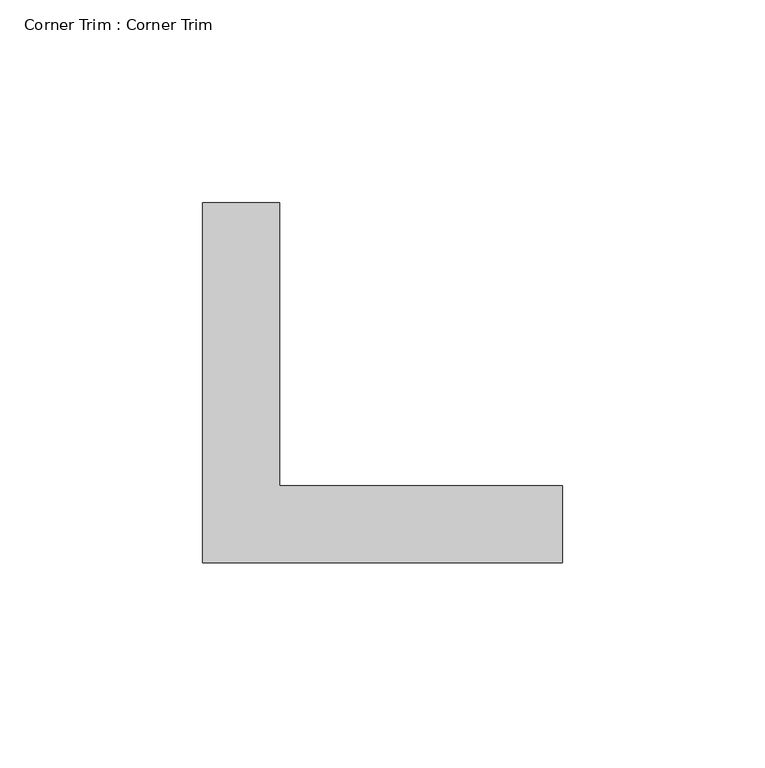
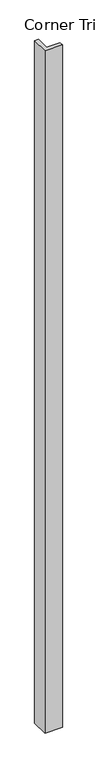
"""IFC4 building model written with IfcOpenShell, lengths in millimetres: proxy geometry, Corner Trim : Corner Trim."""

import ifcopenshell
import ifcopenshell.guid

model = None  # the IFC model being written
_history = None  # IfcOwnerHistory: only IFC2X3 demands one
_inside = {}  # id of a spatial element -> (the spatial element, [elements in it])
_under = {}  # id of a project, library or spatial element -> (it, [spatial elements below it])
_declared = {}  # id of a project -> (the project, [libraries it declares])
_typed = {}  # id of a type object -> (the type object, [elements of that type])
_made_of = {}  # id of a material, layer set ... -> (it, [elements and type objects made of it])


def new_model(schema):
    """Start an empty IFC model of exactly this schema.

    Asked for "IFC4X3", IfcOpenShell would pick the latest addendum, in which some entities
    have other attributes; the version numbers below select the first issue.
    IFC2X3 requires an IfcOwnerHistory on every rooted entity: one is made here for all.
    """
    global model, _history
    if schema == "IFC4X3":
        model = ifcopenshell.file(schema_version=(4, 3, 0, 0))
    else:
        model = ifcopenshell.file(schema=schema)
    _inside.clear()
    _under.clear()
    _declared.clear()
    _typed.clear()
    _made_of.clear()
    _history = None
    if model.schema == "IFC2X3":
        org = make("IfcOrganization", Name="unknown")
        user = make(
            "IfcPersonAndOrganization",
            ThePerson=make("IfcPerson", FamilyName="unknown"),
            TheOrganization=org,
        )
        app = make(
            "IfcApplication",
            ApplicationDeveloper=org,
            Version="unknown",
            ApplicationFullName="unknown",
            ApplicationIdentifier="unknown",
        )
        _history = make(
            "IfcOwnerHistory",
            OwningUser=user,
            OwningApplication=app,
            ChangeAction="ADDED",
            CreationDate=0,
        )
    return model


def make(cls, **values):
    """One entity of the class cls with the attributes given. An attribute that is None is left unset."""
    return model.create_entity(
        cls, **{name: value for name, value in values.items() if value is not None}
    )


def rooted(cls, **values):
    """An entity with a GlobalId (a new one), such as an element, a storey or a relation."""
    return make(cls, GlobalId=ifcopenshell.guid.new(), OwnerHistory=_history, **values)


def si_unit(unit_type, name, prefix=None):
    """IfcSIUnit, for example si_unit("LENGTHUNIT", "METRE", prefix="MILLI")."""
    return make("IfcSIUnit", UnitType=unit_type, Prefix=prefix, Name=name)


def assignment(units):
    """IfcUnitAssignment: the units of a project."""
    return None if units is None else make("IfcUnitAssignment", Units=units)


def point(xyz):
    """IfcCartesianPoint."""
    return None if xyz is None else make("IfcCartesianPoint", Coordinates=xyz)


def direction(xyz):
    """IfcDirection."""
    return None if xyz is None else make("IfcDirection", DirectionRatios=xyz)


def frame(location, z_axis=None, x_axis=None):
    """IfcAxis2Placement3D, a coordinate frame: its origin and axes. An axis left out is left unset."""
    return make(
        "IfcAxis2Placement3D",
        Location=point(location),
        Axis=direction(z_axis),
        RefDirection=direction(x_axis),
    )


def origin():
    """The frame at (0, 0, 0) with its axes left unset."""
    return frame((0.0, 0.0, 0.0))


def origin_with_axes():
    """The frame at (0, 0, 0) with the z axis (0, 0, 1) and the x axis (1, 0, 0) written out."""
    return frame((0.0, 0.0, 0.0), z_axis=(0.0, 0.0, 1.0), x_axis=(1.0, 0.0, 0.0))


def place(relative_to, where):
    """IfcLocalPlacement: puts the frame where relative to a parent placement (None: the world)."""
    return make(
        "IfcLocalPlacement", PlacementRelTo=relative_to, RelativePlacement=where
    )


def context(
    kind, dimensions, precision=None, world=None, true_north=None, identifier=None
):
    """IfcGeometricRepresentationContext, for example the 3D "Model" context."""
    return make(
        "IfcGeometricRepresentationContext",
        ContextIdentifier=identifier,
        ContextType=kind,
        CoordinateSpaceDimension=dimensions,
        Precision=precision,
        WorldCoordinateSystem=world,
        TrueNorth=true_north,
    )


def project(units=None, contexts=None):
    """IfcProject with its units and contexts."""
    return rooted(
        "IfcProject",
        Name="project",
        RepresentationContexts=contexts,
        UnitsInContext=assignment(units),
    )


def spatial(cls, under=None, at=None, **own):
    """A site, building, storey or space (cls), placed at a placement, below another one or the project."""
    s = rooted(cls, ObjectPlacement=at, **own)
    if under is not None:
        _under.setdefault(under.id(), (under, []))[1].append(s)
    return s


def polyline(points):
    """IfcPolyline through the points."""
    return make("IfcPolyline", Points=[point(p) for p in points])


def outline(outer, holes=None, kind="AREA"):
    """IfcArbitraryClosedProfileDef: a profile drawn as a closed curve; with holes, ...WithVoids."""
    if holes is None:
        return make("IfcArbitraryClosedProfileDef", ProfileType=kind, OuterCurve=outer)
    return make(
        "IfcArbitraryProfileDefWithVoids",
        ProfileType=kind,
        OuterCurve=outer,
        InnerCurves=holes,
    )


def extrude(swept, where, along, depth):
    """IfcExtrudedAreaSolid: the profile swept, set in the frame where, extruded along a direction by depth."""
    return make(
        "IfcExtrudedAreaSolid",
        SweptArea=swept,
        Position=where,
        ExtrudedDirection=direction(along),
        Depth=depth,
    )


def shape(context_of_items, identifier, shape_type, items):
    """IfcShapeRepresentation: the items that make up one representation, for example the "Body"."""
    return make(
        "IfcShapeRepresentation",
        ContextOfItems=context_of_items,
        RepresentationIdentifier=identifier,
        RepresentationType=shape_type,
        Items=items,
    )


def source(mapping_origin, context_of_items, identifier, shape_type, items):
    """IfcRepresentationMap: a shape defined once, which mapped items show again and again."""
    return make(
        "IfcRepresentationMap",
        MappingOrigin=mapping_origin,
        MappedRepresentation=shape(context_of_items, identifier, shape_type, items),
    )


def transform(
    local_origin,
    x_axis=None,
    y_axis=None,
    z_axis=None,
    scale=None,
    scale2=None,
    scale3=None,
    uniform=True,
):
    """IfcCartesianTransformationOperator3D, or its non-uniform kind. x_axis, y_axis, z_axis: its Axis1, 2, 3."""
    if uniform:
        return make(
            "IfcCartesianTransformationOperator3D",
            Axis1=direction(x_axis),
            Axis2=direction(y_axis),
            LocalOrigin=point(local_origin),
            Scale=scale,
            Axis3=direction(z_axis),
        )
    return make(
        "IfcCartesianTransformationOperator3DnonUniform",
        Axis1=direction(x_axis),
        Axis2=direction(y_axis),
        LocalOrigin=point(local_origin),
        Scale=scale,
        Axis3=direction(z_axis),
        Scale2=scale2,
        Scale3=scale3,
    )


def mapped(mapping_source, mapping_target):
    """IfcMappedItem: shows the shape of a source again, moved by a transform."""
    return make(
        "IfcMappedItem", MappingSource=mapping_source, MappingTarget=mapping_target
    )


def made_of(thing, what):
    """Note that an element or type object is made of a material, layer set ...; save() writes the relation."""
    if what is not None:
        _made_of.setdefault(what.id(), (what, []))[1].append(thing)
    return thing


def element(
    cls,
    number,
    at=None,
    inside=None,
    cuts=None,
    type_object=None,
    material=None,
    context=None,
    identifier="Body",
    shape_type=None,
    held_by="IfcProductDefinitionShape",
    body=None,
    shapes=None,
    **own,
):
    """One element of the class cls, such as IfcWall. Its Tag is "e" and its number.

    at: its placement. inside: the storey or other place that contains it. cuts: it is an
    opening in that element (IfcRelVoidsElement). A single representation is given by context,
    identifier, shape_type and body (its items); several are given by shapes. held_by: the class
    of the entity that holds the representations. save() writes the other relations.
    """
    e = rooted(cls, Tag="e%d" % number, ObjectPlacement=at, **own)
    if body is not None:
        shapes = [shape(context, identifier, shape_type, body)]
    if shapes is not None:
        e.Representation = make(held_by, Representations=shapes)
    if inside is not None:
        _inside.setdefault(inside.id(), (inside, []))[1].append(e)
    if cuts is not None:
        rooted(
            "IfcRelVoidsElement", RelatingBuildingElement=cuts, RelatedOpeningElement=e
        )
    if type_object is not None:
        _typed.setdefault(type_object.id(), (type_object, []))[1].append(e)
    return made_of(e, material)


def aggregate(whole, parts):
    """IfcRelAggregates: a whole, such as a stair, and the parts it consists of."""
    return rooted("IfcRelAggregates", RelatingObject=whole, RelatedObjects=parts)


def save(model, path):
    """Write the relations noted so far, then the file.

    IfcRelAggregates (storeys below a building ...), IfcRelContainedInSpatialStructure (elements
    in a storey), IfcRelDefinesByType, IfcRelAssociatesMaterial and IfcRelDeclares: one each for
    every whole, place, type object, material and project.
    """
    for whole, parts in _under.values():
        aggregate(whole, parts)
    for where, things in _inside.values():
        rooted(
            "IfcRelContainedInSpatialStructure",
            RelatedElements=things,
            RelatingStructure=where,
        )
    for kind, things in _typed.values():
        rooted("IfcRelDefinesByType", RelatedObjects=things, RelatingType=kind)
    for what, things in _made_of.values():
        rooted("IfcRelAssociatesMaterial", RelatedObjects=things, RelatingMaterial=what)
    for by, libraries in _declared.values():
        rooted("IfcRelDeclares", RelatingContext=by, RelatedDefinitions=libraries)
    model.write(path)


def corner_trim_corner_trim_585ee0fa(model_context):
    return source(origin(), model_context, "Body", "SweptSolid", [
        extrude(outline(polyline([(0.0, 0.0), (0.0, 88.9), (19.05, 88.9), (19.05, 19.05), (88.9, 19.05), (88.9, 0.0), (0.0, 0.0)])), origin_with_axes(), (0.0, 0.0, 1.0), 3657.6),
    ])


if __name__ == "__main__":
    model = new_model("IFC4")
    model_context = context("Model", 3, world=origin())
    ifc_project = project(units=[si_unit("LENGTHUNIT", "METRE", prefix="MILLI")], contexts=[model_context])
    site = spatial("IfcSite", under=ifc_project)
    building = spatial("IfcBuilding", under=site)
    placement = place(None, origin())
    corner_trim_corner_trim_shape = corner_trim_corner_trim_585ee0fa(model_context)
    element("IfcBuildingElementProxy", 1, Name="Corner Trim : Corner Trim", ObjectType="Corner Trim : Corner Trim", at=placement, inside=building, context=model_context, shape_type="MappedRepresentation", body=[
        mapped(corner_trim_corner_trim_shape, transform((0.0, 0.0, 0.0), x_axis=(1.0, 0.0, 0.0), y_axis=(0.0, 1.0, 0.0), z_axis=(0.0, 0.0, 1.0))),
    ])
    save(model, "model.ifc")
